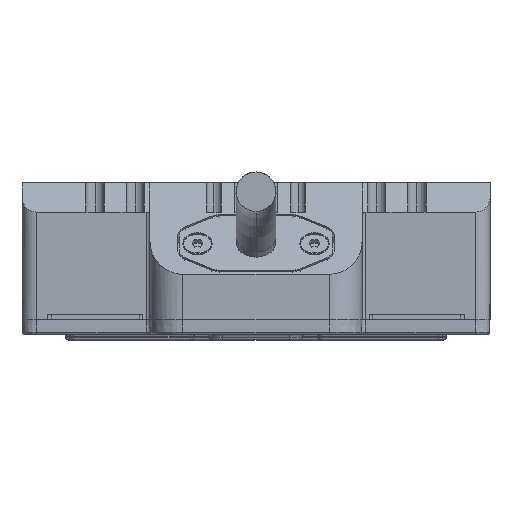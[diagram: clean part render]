
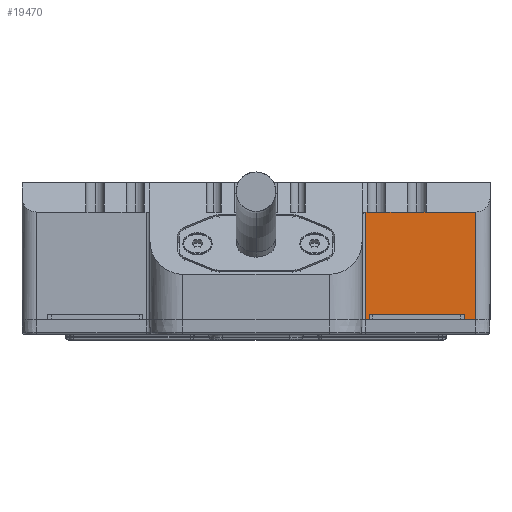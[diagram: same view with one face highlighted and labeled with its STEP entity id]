
A CAD part, front view. The second image highlights one B-rep face of the part: STEP entity #19470.
In plain terms, the highlighted planar face has unit normal (0, -1, 0).
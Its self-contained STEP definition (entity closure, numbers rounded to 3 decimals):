
#123 = CARTESIAN_POINT ( 'NONE',  ( 47., 0., 14. ) ) ;
#374 = ORIENTED_EDGE ( 'NONE', *, *, #8383, .F. ) ;
#654 = VERTEX_POINT ( 'NONE', #24428 ) ;
#755 = CARTESIAN_POINT ( 'NONE',  ( 0., 0., 18. ) ) ;
#792 = VERTEX_POINT ( 'NONE', #17442 ) ;
#824 = ORIENTED_EDGE ( 'NONE', *, *, #26241, .T. ) ;
#826 = VECTOR ( 'NONE', #20077, 1000. ) ;
#931 = VECTOR ( 'NONE', #5572, 1000. ) ;
#1098 = ORIENTED_EDGE ( 'NONE', *, *, #21507, .T. ) ;
#1124 = VECTOR ( 'NONE', #17309, 1000. ) ;
#1261 = CARTESIAN_POINT ( 'NONE',  ( 0., 0., 14. ) ) ;
#1336 = ORIENTED_EDGE ( 'NONE', *, *, #15547, .T. ) ;
#2315 = EDGE_CURVE ( 'NONE', #21860, #27652, #13711, .T. ) ;
#2459 = VECTOR ( 'NONE', #14472, 1000. ) ;
#2759 = EDGE_CURVE ( 'NONE', #7643, #8645, #13813, .T. ) ;
#3355 = CARTESIAN_POINT ( 'NONE',  ( 0., 0., 14. ) ) ;
#3362 = FACE_OUTER_BOUND ( 'NONE', #28349, .T. ) ;
#3556 = ORIENTED_EDGE ( 'NONE', *, *, #10116, .F. ) ;
#5388 = CARTESIAN_POINT ( 'NONE',  ( 0., 0., -0.7 ) ) ;
#5572 = DIRECTION ( 'NONE',  ( 0., 0., 1. ) ) ;
#5888 = CARTESIAN_POINT ( 'NONE',  ( 0., 0., 14. ) ) ;
#6444 = VERTEX_POINT ( 'NONE', #123 ) ;
#6634 = DIRECTION ( 'NONE',  ( 1., 0., 0. ) ) ;
#7193 = ORIENTED_EDGE ( 'NONE', *, *, #10570, .F. ) ;
#7489 = LINE ( 'NONE', #5888, #2459 ) ;
#7624 = LINE ( 'NONE', #23023, #931 ) ;
#7643 = VERTEX_POINT ( 'NONE', #17534 ) ;
#8134 = EDGE_CURVE ( 'NONE', #13358, #13279, #27505, .T. ) ;
#8143 = CARTESIAN_POINT ( 'NONE',  ( 47.5, 0., 0. ) ) ;
#8383 = EDGE_CURVE ( 'NONE', #19076, #27981, #27469, .T. ) ;
#8645 = VERTEX_POINT ( 'NONE', #11972 ) ;
#9265 = VECTOR ( 'NONE', #12345, 1000. ) ;
#9598 = DIRECTION ( 'NONE',  ( 0., 1., 0. ) ) ;
#10116 = EDGE_CURVE ( 'NONE', #13358, #654, #10155, .T. ) ;
#10155 = LINE ( 'NONE', #5388, #9265 ) ;
#10570 = EDGE_CURVE ( 'NONE', #7643, #792, #7624, .T. ) ;
#10764 = AXIS2_PLACEMENT_3D ( 'NONE', #755, #9598, #16292 ) ;
#10924 = DIRECTION ( 'NONE',  ( 0., 0., 1. ) ) ;
#11972 = CARTESIAN_POINT ( 'NONE',  ( 62., 0., -0.7 ) ) ;
#12067 = ORIENTED_EDGE ( 'NONE', *, *, #20956, .T. ) ;
#12345 = DIRECTION ( 'NONE',  ( -1., 0., 0. ) ) ;
#12750 = LINE ( 'NONE', #1261, #22804 ) ;
#12944 = ORIENTED_EDGE ( 'NONE', *, *, #2315, .F. ) ;
#13069 = CARTESIAN_POINT ( 'NONE',  ( 0., 0., 14. ) ) ;
#13271 = LINE ( 'NONE', #20520, #17806 ) ;
#13279 = VERTEX_POINT ( 'NONE', #8143 ) ;
#13358 = VERTEX_POINT ( 'NONE', #18572 ) ;
#13527 = CARTESIAN_POINT ( 'NONE',  ( 0., 0., -0.7 ) ) ;
#13711 = LINE ( 'NONE', #20509, #826 ) ;
#13813 = LINE ( 'NONE', #13527, #19371 ) ;
#14011 = CARTESIAN_POINT ( 'NONE',  ( 47.5, 0., -0.7 ) ) ;
#14441 = VECTOR ( 'NONE', #6634, 1000. ) ;
#14472 = DIRECTION ( 'NONE',  ( -1., 0., 0. ) ) ;
#14935 = DIRECTION ( 'NONE',  ( -1., 0., 0. ) ) ;
#15083 = VECTOR ( 'NONE', #27218, 1000. ) ;
#15547 = EDGE_CURVE ( 'NONE', #8645, #20277, #21976, .T. ) ;
#16166 = VECTOR ( 'NONE', #10924, 1000. ) ;
#16292 = DIRECTION ( 'NONE',  ( 0., 0., 1. ) ) ;
#17214 = ORIENTED_EDGE ( 'NONE', *, *, #2759, .T. ) ;
#17309 = DIRECTION ( 'NONE',  ( -1., 0., 0. ) ) ;
#17369 = VECTOR ( 'NONE', #18880, 1000. ) ;
#17442 = CARTESIAN_POINT ( 'NONE',  ( 60.5, 0., 0. ) ) ;
#17534 = CARTESIAN_POINT ( 'NONE',  ( 60.5, 0., -0.7 ) ) ;
#17555 = CARTESIAN_POINT ( 'NONE',  ( 52.75, 0., 14. ) ) ;
#17806 = VECTOR ( 'NONE', #18223, 1000. ) ;
#18136 = CARTESIAN_POINT ( 'NONE',  ( 55.25, 0., 14. ) ) ;
#18223 = DIRECTION ( 'NONE',  ( 0., 0., -1. ) ) ;
#18390 = LINE ( 'NONE', #20116, #14441 ) ;
#18572 = CARTESIAN_POINT ( 'NONE',  ( 47.5, 0., -0.7 ) ) ;
#18880 = DIRECTION ( 'NONE',  ( 1., 0., 0. ) ) ;
#19076 = VERTEX_POINT ( 'NONE', #20368 ) ;
#19371 = VECTOR ( 'NONE', #22224, 1000. ) ;
#19470 = ADVANCED_FACE ( 'NONE', ( #3362 ), #20644, .F. ) ;
#20077 = DIRECTION ( 'NONE',  ( 1., 0., 0. ) ) ;
#20116 = CARTESIAN_POINT ( 'NONE',  ( 0., 0., 0. ) ) ;
#20277 = VERTEX_POINT ( 'NONE', #24440 ) ;
#20368 = CARTESIAN_POINT ( 'NONE',  ( 47.25, 0., 14. ) ) ;
#20509 = CARTESIAN_POINT ( 'NONE',  ( 0., 0., 14. ) ) ;
#20520 = CARTESIAN_POINT ( 'NONE',  ( 47., 0., 18. ) ) ;
#20644 = PLANE ( 'NONE',  #10764 ) ;
#20956 = EDGE_CURVE ( 'NONE', #6444, #654, #13271, .T. ) ;
#21507 = EDGE_CURVE ( 'NONE', #20277, #27652, #21932, .T. ) ;
#21860 = VERTEX_POINT ( 'NONE', #17555 ) ;
#21932 = LINE ( 'NONE', #13069, #1124 ) ;
#21976 = LINE ( 'NONE', #28373, #16166 ) ;
#22224 = DIRECTION ( 'NONE',  ( 1., 0., 0. ) ) ;
#22804 = VECTOR ( 'NONE', #14935, 1000. ) ;
#23023 = CARTESIAN_POINT ( 'NONE',  ( 60.5, 0., -0.7 ) ) ;
#23324 = CARTESIAN_POINT ( 'NONE',  ( 49.75, 0., 14. ) ) ;
#24428 = CARTESIAN_POINT ( 'NONE',  ( 47., 0., -0.7 ) ) ;
#24440 = CARTESIAN_POINT ( 'NONE',  ( 62., 0., 14. ) ) ;
#25272 = EDGE_CURVE ( 'NONE', #13279, #792, #18390, .T. ) ;
#25275 = ORIENTED_EDGE ( 'NONE', *, *, #25272, .T. ) ;
#25615 = ORIENTED_EDGE ( 'NONE', *, *, #28710, .T. ) ;
#26241 = EDGE_CURVE ( 'NONE', #21860, #27981, #7489, .T. ) ;
#27218 = DIRECTION ( 'NONE',  ( 0., 0., 1. ) ) ;
#27287 = ORIENTED_EDGE ( 'NONE', *, *, #8134, .T. ) ;
#27469 = LINE ( 'NONE', #3355, #17369 ) ;
#27505 = LINE ( 'NONE', #14011, #15083 ) ;
#27652 = VERTEX_POINT ( 'NONE', #18136 ) ;
#27981 = VERTEX_POINT ( 'NONE', #23324 ) ;
#28349 = EDGE_LOOP ( 'NONE', ( #1098, #12944, #824, #374, #25615, #12067, #3556, #27287, #25275, #7193, #17214, #1336 ) ) ;
#28373 = CARTESIAN_POINT ( 'NONE',  ( 62., 0., 18. ) ) ;
#28710 = EDGE_CURVE ( 'NONE', #19076, #6444, #12750, .T. ) ;
